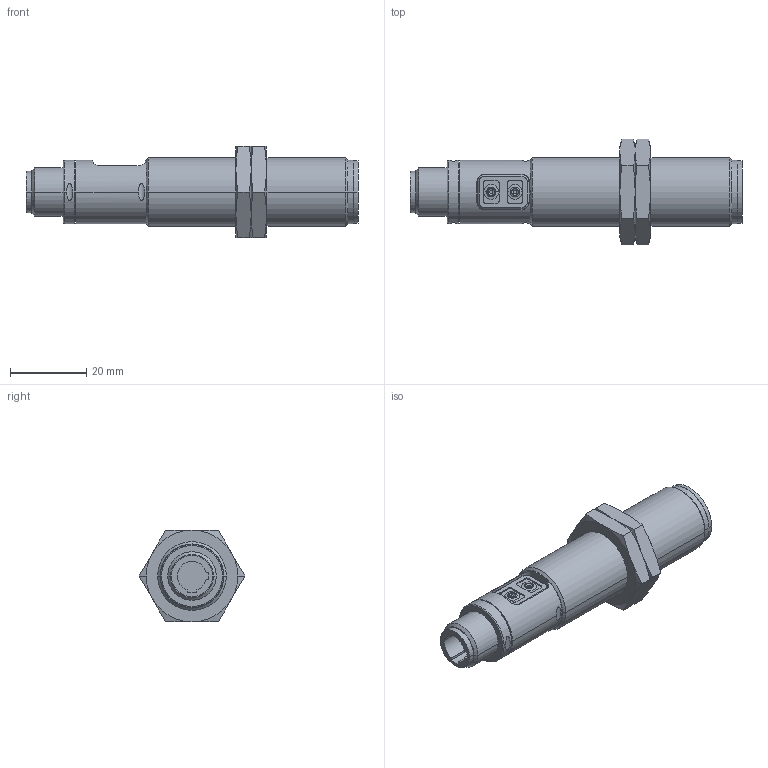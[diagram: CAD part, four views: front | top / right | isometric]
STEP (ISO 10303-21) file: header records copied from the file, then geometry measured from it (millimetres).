
FILE_DESCRIPTION( ( '' ), '1' );
FILE_NAME( '//expscmdclustefs.cadenas.external/client_exchange/iodir/jobs/output/wkb39660462_no0/STEP/kg0016_2_03_56fa68aab0d912ba39a93ed9979b71de.stp', '2011-12-01T08:39:19', ( '' ), ( '' ), ' ', ' ', ' ' );
FILE_SCHEMA( ( 'CONFIG_CONTROL_DESIGN' ) );
Length unit declared in the file: millimetre
Products named in the file (3): 1; 2; 3
Bounding box: 87 x 27.71 x 24 mm (x, y, z)
Volume: 21322.6 mm3; surface area: 7573.8 mm2
Topology: 3 solids, 3 shells, 165 faces, 374 edges, 229 vertices
Faces by surface type: cone 62, plane 52, cylinder 45, torus 6
Entity records: 5001 total; most frequent: CARTESIAN_POINT 1199, DIRECTION 811, ORIENTED_EDGE 748, EDGE_CURVE 374, AXIS2_PLACEMENT_3D 329, VERTEX_POINT 229, EDGE_LOOP 183, ADVANCED_FACE 165
